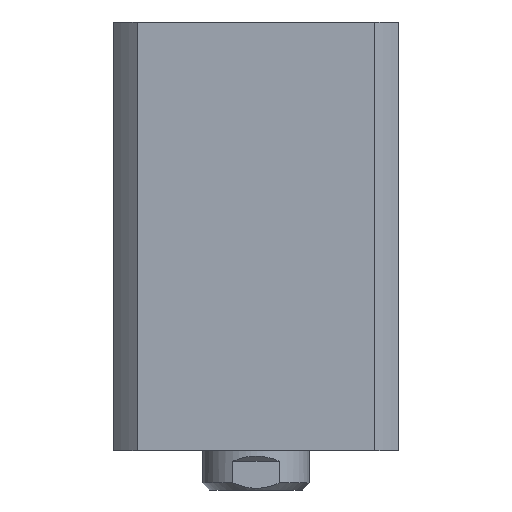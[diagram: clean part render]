
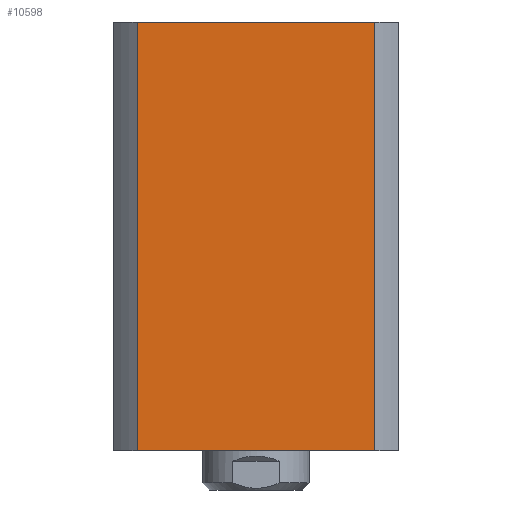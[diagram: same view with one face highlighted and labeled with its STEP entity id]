
A CAD part, left-side view. The second image highlights one B-rep face of the part: STEP entity #10598.
In plain terms, the highlighted planar face has unit normal (-1, 0, 0).
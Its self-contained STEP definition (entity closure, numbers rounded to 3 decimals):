
#422 = ORIENTED_EDGE ( 'NONE', *, *, #7438, .F. ) ;
#872 = DIRECTION ( 'NONE',  ( 0., 0., -1. ) ) ;
#1386 = EDGE_CURVE ( 'NONE', #7669, #5158, #2788, .T. ) ;
#1395 = VERTEX_POINT ( 'NONE', #1693 ) ;
#1693 = CARTESIAN_POINT ( 'NONE',  ( -40., 33.226, -60. ) ) ;
#1953 = CARTESIAN_POINT ( 'NONE',  ( -40., 33.226, 60. ) ) ;
#2757 = EDGE_CURVE ( 'NONE', #7669, #1395, #4997, .T. ) ;
#2788 = LINE ( 'NONE', #8181, #13791 ) ;
#3977 = DIRECTION ( 'NONE',  ( 1., 0., 0. ) ) ;
#4873 = FACE_OUTER_BOUND ( 'NONE', #8192, .T. ) ;
#4997 = LINE ( 'NONE', #10770, #7684 ) ;
#5158 = VERTEX_POINT ( 'NONE', #13581 ) ;
#6331 = ORIENTED_EDGE ( 'NONE', *, *, #8613, .T. ) ;
#6415 = ORIENTED_EDGE ( 'NONE', *, *, #1386, .F. ) ;
#6441 = CARTESIAN_POINT ( 'NONE',  ( -40., -33.226, -60. ) ) ;
#7438 = EDGE_CURVE ( 'NONE', #5158, #13236, #13614, .T. ) ;
#7477 = ORIENTED_EDGE ( 'NONE', *, *, #2757, .T. ) ;
#7669 = VERTEX_POINT ( 'NONE', #8771 ) ;
#7684 = VECTOR ( 'NONE', #872, 1000. ) ;
#8056 = AXIS2_PLACEMENT_3D ( 'NONE', #1953, #3977, #10477 ) ;
#8133 = CARTESIAN_POINT ( 'NONE',  ( -40., 33.226, -60. ) ) ;
#8181 = CARTESIAN_POINT ( 'NONE',  ( -40., 33.226, 60. ) ) ;
#8192 = EDGE_LOOP ( 'NONE', ( #6331, #422, #6415, #7477 ) ) ;
#8613 = EDGE_CURVE ( 'NONE', #1395, #13236, #11815, .T. ) ;
#8771 = CARTESIAN_POINT ( 'NONE',  ( -40., 33.226, 60. ) ) ;
#9049 = DIRECTION ( 'NONE',  ( 0., -1., 0. ) ) ;
#10477 = DIRECTION ( 'NONE',  ( 0., 1., 0. ) ) ;
#10598 = ADVANCED_FACE ( 'NONE', ( #4873 ), #13649, .F. ) ;
#10770 = CARTESIAN_POINT ( 'NONE',  ( -40., 33.226, 60. ) ) ;
#11296 = VECTOR ( 'NONE', #12426, 1000. ) ;
#11815 = LINE ( 'NONE', #8133, #11296 ) ;
#12426 = DIRECTION ( 'NONE',  ( 0., -1., 0. ) ) ;
#12596 = DIRECTION ( 'NONE',  ( 0., 0., -1. ) ) ;
#13236 = VERTEX_POINT ( 'NONE', #6441 ) ;
#13445 = VECTOR ( 'NONE', #12596, 1000. ) ;
#13581 = CARTESIAN_POINT ( 'NONE',  ( -40., -33.226, 60. ) ) ;
#13614 = LINE ( 'NONE', #13877, #13445 ) ;
#13649 = PLANE ( 'NONE',  #8056 ) ;
#13791 = VECTOR ( 'NONE', #9049, 1000. ) ;
#13877 = CARTESIAN_POINT ( 'NONE',  ( -40., -33.226, 60. ) ) ;
